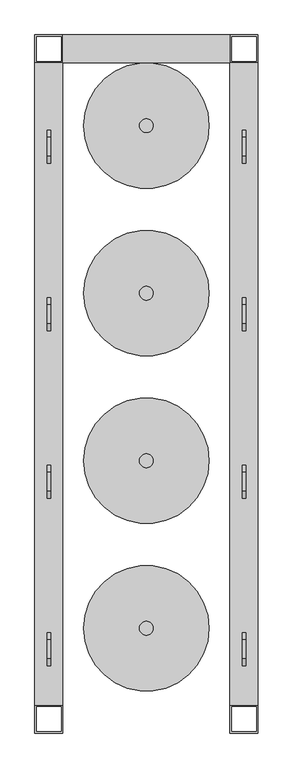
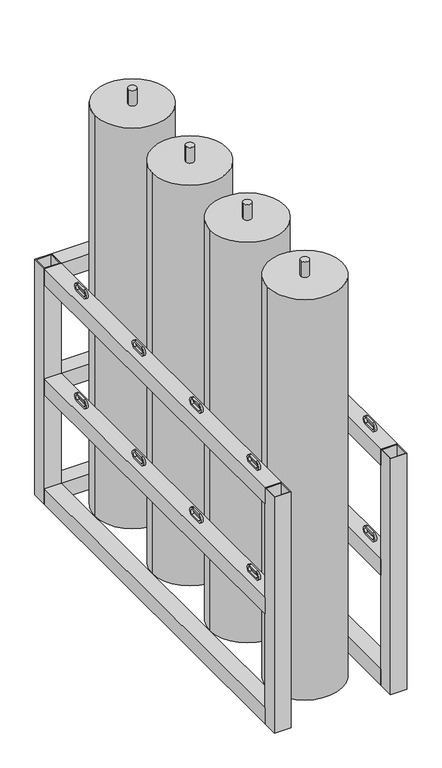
"""IFC4 building model written with IfcOpenShell, lengths in millimetres: flow terminal geometry, Gas_Cylinder_Rack_4_Tanks_1x4_USAsafetycom_18954 : Gas_Cylinder_Rack_4_Tanks_1x4_USAsafetycom_18954."""

import ifcopenshell
import ifcopenshell.guid

model = None  # the IFC model being written
_history = None  # IfcOwnerHistory: only IFC2X3 demands one
_inside = {}  # id of a spatial element -> (the spatial element, [elements in it])
_under = {}  # id of a project, library or spatial element -> (it, [spatial elements below it])
_declared = {}  # id of a project -> (the project, [libraries it declares])
_typed = {}  # id of a type object -> (the type object, [elements of that type])
_made_of = {}  # id of a material, layer set ... -> (it, [elements and type objects made of it])


def new_model(schema):
    """Start an empty IFC model of exactly this schema.

    Asked for "IFC4X3", IfcOpenShell would pick the latest addendum, in which some entities
    have other attributes; the version numbers below select the first issue.
    IFC2X3 requires an IfcOwnerHistory on every rooted entity: one is made here for all.
    """
    global model, _history
    if schema == "IFC4X3":
        model = ifcopenshell.file(schema_version=(4, 3, 0, 0))
    else:
        model = ifcopenshell.file(schema=schema)
    _inside.clear()
    _under.clear()
    _declared.clear()
    _typed.clear()
    _made_of.clear()
    _history = None
    if model.schema == "IFC2X3":
        org = make("IfcOrganization", Name="unknown")
        user = make(
            "IfcPersonAndOrganization",
            ThePerson=make("IfcPerson", FamilyName="unknown"),
            TheOrganization=org,
        )
        app = make(
            "IfcApplication",
            ApplicationDeveloper=org,
            Version="unknown",
            ApplicationFullName="unknown",
            ApplicationIdentifier="unknown",
        )
        _history = make(
            "IfcOwnerHistory",
            OwningUser=user,
            OwningApplication=app,
            ChangeAction="ADDED",
            CreationDate=0,
        )
    return model


def make(cls, **values):
    """One entity of the class cls with the attributes given. An attribute that is None is left unset."""
    return model.create_entity(
        cls, **{name: value for name, value in values.items() if value is not None}
    )


def rooted(cls, **values):
    """An entity with a GlobalId (a new one), such as an element, a storey or a relation."""
    return make(cls, GlobalId=ifcopenshell.guid.new(), OwnerHistory=_history, **values)


def si_unit(unit_type, name, prefix=None):
    """IfcSIUnit, for example si_unit("LENGTHUNIT", "METRE", prefix="MILLI")."""
    return make("IfcSIUnit", UnitType=unit_type, Prefix=prefix, Name=name)


def assignment(units):
    """IfcUnitAssignment: the units of a project."""
    return None if units is None else make("IfcUnitAssignment", Units=units)


def point(xyz):
    """IfcCartesianPoint."""
    return None if xyz is None else make("IfcCartesianPoint", Coordinates=xyz)


def direction(xyz):
    """IfcDirection."""
    return None if xyz is None else make("IfcDirection", DirectionRatios=xyz)


def frame(location, z_axis=None, x_axis=None):
    """IfcAxis2Placement3D, a coordinate frame: its origin and axes. An axis left out is left unset."""
    return make(
        "IfcAxis2Placement3D",
        Location=point(location),
        Axis=direction(z_axis),
        RefDirection=direction(x_axis),
    )


def frame_2d(location, x_axis=None):
    """IfcAxis2Placement2D, a coordinate frame in the plane: its origin and x axis."""
    return make(
        "IfcAxis2Placement2D", Location=point(location), RefDirection=direction(x_axis)
    )


def origin():
    """The frame at (0, 0, 0) with its axes left unset."""
    return frame((0.0, 0.0, 0.0))


def origin_with_axes():
    """The frame at (0, 0, 0) with the z axis (0, 0, 1) and the x axis (1, 0, 0) written out."""
    return frame((0.0, 0.0, 0.0), z_axis=(0.0, 0.0, 1.0), x_axis=(1.0, 0.0, 0.0))


def place(relative_to, where):
    """IfcLocalPlacement: puts the frame where relative to a parent placement (None: the world)."""
    return make(
        "IfcLocalPlacement", PlacementRelTo=relative_to, RelativePlacement=where
    )


def context(
    kind, dimensions, precision=None, world=None, true_north=None, identifier=None
):
    """IfcGeometricRepresentationContext, for example the 3D "Model" context."""
    return make(
        "IfcGeometricRepresentationContext",
        ContextIdentifier=identifier,
        ContextType=kind,
        CoordinateSpaceDimension=dimensions,
        Precision=precision,
        WorldCoordinateSystem=world,
        TrueNorth=true_north,
    )


def project(units=None, contexts=None):
    """IfcProject with its units and contexts."""
    return rooted(
        "IfcProject",
        Name="project",
        RepresentationContexts=contexts,
        UnitsInContext=assignment(units),
    )


def spatial(cls, under=None, at=None, **own):
    """A site, building, storey or space (cls), placed at a placement, below another one or the project."""
    s = rooted(cls, ObjectPlacement=at, **own)
    if under is not None:
        _under.setdefault(under.id(), (under, []))[1].append(s)
    return s


def polyline(points):
    """IfcPolyline through the points."""
    return make("IfcPolyline", Points=[point(p) for p in points])


def circle_curve(where, radius):
    """IfcCircle in the frame where."""
    return make("IfcCircle", Position=where, Radius=radius)


def trimmed(basis, trim1, trim2, sense, master):
    """IfcTrimmedCurve: the piece of a basis curve between two trims."""
    return make(
        "IfcTrimmedCurve",
        BasisCurve=basis,
        Trim1=trim1,
        Trim2=trim2,
        SenseAgreement=sense,
        MasterRepresentation=master,
    )


def segment(curve, same_sense, transition):
    """IfcCompositeCurveSegment."""
    return make(
        "IfcCompositeCurveSegment",
        Transition=transition,
        SameSense=same_sense,
        ParentCurve=curve,
    )


def composite_curve(segments, self_intersect=None):
    """IfcCompositeCurve: segments joined end to end."""
    return make("IfcCompositeCurve", Segments=segments, SelfIntersect=self_intersect)


def outline(outer, holes=None, kind="AREA"):
    """IfcArbitraryClosedProfileDef: a profile drawn as a closed curve; with holes, ...WithVoids."""
    if holes is None:
        return make("IfcArbitraryClosedProfileDef", ProfileType=kind, OuterCurve=outer)
    return make(
        "IfcArbitraryProfileDefWithVoids",
        ProfileType=kind,
        OuterCurve=outer,
        InnerCurves=holes,
    )


def extrude(swept, where, along, depth):
    """IfcExtrudedAreaSolid: the profile swept, set in the frame where, extruded along a direction by depth."""
    return make(
        "IfcExtrudedAreaSolid",
        SweptArea=swept,
        Position=where,
        ExtrudedDirection=direction(along),
        Depth=depth,
    )


def shape(context_of_items, identifier, shape_type, items):
    """IfcShapeRepresentation: the items that make up one representation, for example the "Body"."""
    return make(
        "IfcShapeRepresentation",
        ContextOfItems=context_of_items,
        RepresentationIdentifier=identifier,
        RepresentationType=shape_type,
        Items=items,
    )


def source(mapping_origin, context_of_items, identifier, shape_type, items):
    """IfcRepresentationMap: a shape defined once, which mapped items show again and again."""
    return make(
        "IfcRepresentationMap",
        MappingOrigin=mapping_origin,
        MappedRepresentation=shape(context_of_items, identifier, shape_type, items),
    )


def transform(
    local_origin,
    x_axis=None,
    y_axis=None,
    z_axis=None,
    scale=None,
    scale2=None,
    scale3=None,
    uniform=True,
):
    """IfcCartesianTransformationOperator3D, or its non-uniform kind. x_axis, y_axis, z_axis: its Axis1, 2, 3."""
    if uniform:
        return make(
            "IfcCartesianTransformationOperator3D",
            Axis1=direction(x_axis),
            Axis2=direction(y_axis),
            LocalOrigin=point(local_origin),
            Scale=scale,
            Axis3=direction(z_axis),
        )
    return make(
        "IfcCartesianTransformationOperator3DnonUniform",
        Axis1=direction(x_axis),
        Axis2=direction(y_axis),
        LocalOrigin=point(local_origin),
        Scale=scale,
        Axis3=direction(z_axis),
        Scale2=scale2,
        Scale3=scale3,
    )


def mapped(mapping_source, mapping_target):
    """IfcMappedItem: shows the shape of a source again, moved by a transform."""
    return make(
        "IfcMappedItem", MappingSource=mapping_source, MappingTarget=mapping_target
    )


def made_of(thing, what):
    """Note that an element or type object is made of a material, layer set ...; save() writes the relation."""
    if what is not None:
        _made_of.setdefault(what.id(), (what, []))[1].append(thing)
    return thing


def element(
    cls,
    number,
    at=None,
    inside=None,
    cuts=None,
    type_object=None,
    material=None,
    context=None,
    identifier="Body",
    shape_type=None,
    held_by="IfcProductDefinitionShape",
    body=None,
    shapes=None,
    **own,
):
    """One element of the class cls, such as IfcWall. Its Tag is "e" and its number.

    at: its placement. inside: the storey or other place that contains it. cuts: it is an
    opening in that element (IfcRelVoidsElement). A single representation is given by context,
    identifier, shape_type and body (its items); several are given by shapes. held_by: the class
    of the entity that holds the representations. save() writes the other relations.
    """
    e = rooted(cls, Tag="e%d" % number, ObjectPlacement=at, **own)
    if body is not None:
        shapes = [shape(context, identifier, shape_type, body)]
    if shapes is not None:
        e.Representation = make(held_by, Representations=shapes)
    if inside is not None:
        _inside.setdefault(inside.id(), (inside, []))[1].append(e)
    if cuts is not None:
        rooted(
            "IfcRelVoidsElement", RelatingBuildingElement=cuts, RelatedOpeningElement=e
        )
    if type_object is not None:
        _typed.setdefault(type_object.id(), (type_object, []))[1].append(e)
    return made_of(e, material)


def aggregate(whole, parts):
    """IfcRelAggregates: a whole, such as a stair, and the parts it consists of."""
    return rooted("IfcRelAggregates", RelatingObject=whole, RelatedObjects=parts)


def save(model, path):
    """Write the relations noted so far, then the file.

    IfcRelAggregates (storeys below a building ...), IfcRelContainedInSpatialStructure (elements
    in a storey), IfcRelDefinesByType, IfcRelAssociatesMaterial and IfcRelDeclares: one each for
    every whole, place, type object, material and project.
    """
    for whole, parts in _under.values():
        aggregate(whole, parts)
    for where, things in _inside.values():
        rooted(
            "IfcRelContainedInSpatialStructure",
            RelatedElements=things,
            RelatingStructure=where,
        )
    for kind, things in _typed.values():
        rooted("IfcRelDefinesByType", RelatedObjects=things, RelatingType=kind)
    for what, things in _made_of.values():
        rooted("IfcRelAssociatesMaterial", RelatedObjects=things, RelatingMaterial=what)
    for by, libraries in _declared.values():
        rooted("IfcRelDeclares", RelatingContext=by, RelatedDefinitions=libraries)
    model.write(path)


def flow_terminal_4c00ecbf(model_context):
    return source(origin(), model_context, "Body", "SweptSolid", [
        extrude(outline(composite_curve([segment(trimmed(circle_curve(frame_2d((203.2, -165.1)), 12.5), [point((190.7, -165.1))], [point((215.7, -165.1))], False, "CARTESIAN"), True, "CONTINUOUS"), segment(trimmed(circle_curve(frame_2d((203.2, -165.1)), 12.5), [point((215.7, -165.1))], [point((190.7, -165.1))], False, "CARTESIAN"), True, "CONTINUOUS")], self_intersect=False)), frame((0.0, 0.0, 1295.4), z_axis=(0.0, 0.0, 1.0), x_axis=(1.0, 0.0, 0.0)), (0.0, 0.0, 1.0), 50.0),
        extrude(outline(composite_curve([segment(trimmed(circle_curve(frame_2d((203.2, -469.9)), 12.5), [point((190.7, -469.9))], [point((215.7, -469.9))], False, "CARTESIAN"), True, "CONTINUOUS"), segment(trimmed(circle_curve(frame_2d((203.2, -469.9)), 12.5), [point((215.7, -469.9))], [point((190.7, -469.9))], False, "CARTESIAN"), True, "CONTINUOUS")], self_intersect=False)), frame((0.0, 0.0, 1295.4), z_axis=(0.0, 0.0, 1.0), x_axis=(1.0, 0.0, 0.0)), (0.0, 0.0, 1.0), 50.0),
        extrude(outline(composite_curve([segment(trimmed(circle_curve(frame_2d((203.2, -774.7)), 12.5), [point((190.7, -774.7))], [point((215.7, -774.7))], False, "CARTESIAN"), True, "CONTINUOUS"), segment(trimmed(circle_curve(frame_2d((203.2, -774.7)), 12.5), [point((215.7, -774.7))], [point((190.7, -774.7))], False, "CARTESIAN"), True, "CONTINUOUS")], self_intersect=False)), frame((0.0, 0.0, 1295.4), z_axis=(0.0, 0.0, 1.0), x_axis=(1.0, 0.0, 0.0)), (0.0, 0.0, 1.0), 50.0),
        extrude(outline(composite_curve([segment(trimmed(circle_curve(frame_2d((203.2, -1079.5)), 12.5), [point((190.7, -1079.5))], [point((215.7, -1079.5))], False, "CARTESIAN"), True, "CONTINUOUS"), segment(trimmed(circle_curve(frame_2d((203.2, -1079.5)), 12.5), [point((215.7, -1079.5))], [point((190.7, -1079.5))], False, "CARTESIAN"), True, "CONTINUOUS")], self_intersect=False)), frame((0.0, 0.0, 1295.4), z_axis=(0.0, 0.0, 1.0), x_axis=(1.0, 0.0, 0.0)), (0.0, 0.0, 1.0), 50.0),
        extrude(outline(composite_curve([segment(trimmed(circle_curve(frame_2d((203.2, -1079.5)), 114.3), [point((88.9, -1079.5))], [point((317.5, -1079.5))], False, "CARTESIAN"), True, "CONTINUOUS"), segment(trimmed(circle_curve(frame_2d((203.2, -1079.5)), 114.3), [point((317.5, -1079.5))], [point((88.9, -1079.5))], False, "CARTESIAN"), True, "CONTINUOUS")], self_intersect=False)), origin_with_axes(), (0.0, 0.0, 1.0), 1295.4),
        extrude(outline(composite_curve([segment(trimmed(circle_curve(frame_2d((-1134.6815, 419.481)), 13.081), [point((-1134.6815, 406.4))], [point((-1134.6815, 432.562))], False, "CARTESIAN"), True, "CONTINUOUS"), segment(polyline([(-1134.6815, 432.562), (-1100.5185, 432.562)]), True, "CONTINUOUS"), segment(trimmed(circle_curve(frame_2d((-1100.5185, 419.481)), 13.081), [point((-1100.5185, 432.562))], [point((-1100.5185, 406.4))], False, "CARTESIAN"), True, "CONTINUOUS"), segment(polyline([(-1100.5185, 406.4), (-1134.6815, 406.4)]), True, "CONTINUOUS")], self_intersect=False), holes=[composite_curve([segment(polyline([(-1134.6815, 412.75), (-1100.5185, 412.75)]), True, "CONTINUOUS"), segment(trimmed(circle_curve(frame_2d((-1100.5185, 419.481)), 6.731), [point((-1100.5185, 412.75))], [point((-1100.5185, 426.212))], True, "CARTESIAN"), True, "CONTINUOUS"), segment(polyline([(-1100.5185, 426.212), (-1134.6815, 426.212)]), True, "CONTINUOUS"), segment(trimmed(circle_curve(frame_2d((-1134.6815, 419.481)), 6.731), [point((-1134.6815, 426.212))], [point((-1134.6815, 412.75))], True, "CARTESIAN"), True, "CONTINUOUS")], self_intersect=False)]), frame((22.225, 0.0, 0.0), z_axis=(1.0, 0.0, 0.0), x_axis=(0.0, 1.0, 0.0)), (0.0, 0.0, 1.0), 6.35),
        extrude(outline(composite_curve([segment(trimmed(circle_curve(frame_2d((-1134.6815, 419.481)), 13.081), [point((-1134.6815, 406.4))], [point((-1134.6815, 432.562))], False, "CARTESIAN"), True, "CONTINUOUS"), segment(polyline([(-1134.6815, 432.562), (-1100.5185, 432.562)]), True, "CONTINUOUS"), segment(trimmed(circle_curve(frame_2d((-1100.5185, 419.481)), 13.081), [point((-1100.5185, 432.562))], [point((-1100.5185, 406.4))], False, "CARTESIAN"), True, "CONTINUOUS"), segment(polyline([(-1100.5185, 406.4), (-1134.6815, 406.4)]), True, "CONTINUOUS")], self_intersect=False), holes=[composite_curve([segment(polyline([(-1134.6815, 412.75), (-1100.5185, 412.75)]), True, "CONTINUOUS"), segment(trimmed(circle_curve(frame_2d((-1100.5185, 419.481)), 6.731), [point((-1100.5185, 412.75))], [point((-1100.5185, 426.212))], True, "CARTESIAN"), True, "CONTINUOUS"), segment(polyline([(-1100.5185, 426.212), (-1134.6815, 426.212)]), True, "CONTINUOUS"), segment(trimmed(circle_curve(frame_2d((-1134.6815, 419.481)), 6.731), [point((-1134.6815, 426.212))], [point((-1134.6815, 412.75))], True, "CARTESIAN"), True, "CONTINUOUS")], self_intersect=False)]), frame((377.825, 0.0, 0.0), z_axis=(1.0, 0.0, 0.0), x_axis=(0.0, 1.0, 0.0)), (0.0, 0.0, 1.0), 6.35),
        extrude(outline(composite_curve([segment(trimmed(circle_curve(frame_2d((-1134.6815, 775.081)), 13.081), [point((-1134.6815, 762.0))], [point((-1134.6815, 788.162))], False, "CARTESIAN"), True, "CONTINUOUS"), segment(polyline([(-1134.6815, 788.162), (-1100.5185, 788.162)]), True, "CONTINUOUS"), segment(trimmed(circle_curve(frame_2d((-1100.5185, 775.081)), 13.081), [point((-1100.5185, 788.162))], [point((-1100.5185, 762.0))], False, "CARTESIAN"), True, "CONTINUOUS"), segment(polyline([(-1100.5185, 762.0), (-1134.6815, 762.0)]), True, "CONTINUOUS")], self_intersect=False), holes=[composite_curve([segment(polyline([(-1134.6815, 768.35), (-1100.5185, 768.35)]), True, "CONTINUOUS"), segment(trimmed(circle_curve(frame_2d((-1100.5185, 775.081)), 6.731), [point((-1100.5185, 768.35))], [point((-1100.5185, 781.812))], True, "CARTESIAN"), True, "CONTINUOUS"), segment(polyline([(-1100.5185, 781.812), (-1134.6815, 781.812)]), True, "CONTINUOUS"), segment(trimmed(circle_curve(frame_2d((-1134.6815, 775.081)), 6.731), [point((-1134.6815, 781.812))], [point((-1134.6815, 768.35))], True, "CARTESIAN"), True, "CONTINUOUS")], self_intersect=False)]), frame((22.225, 0.0, 0.0), z_axis=(1.0, 0.0, 0.0), x_axis=(0.0, 1.0, 0.0)), (0.0, 0.0, 1.0), 6.35),
        extrude(outline(composite_curve([segment(trimmed(circle_curve(frame_2d((-1134.6815, 775.081)), 13.081), [point((-1134.6815, 762.0))], [point((-1134.6815, 788.162))], False, "CARTESIAN"), True, "CONTINUOUS"), segment(polyline([(-1134.6815, 788.162), (-1100.5185, 788.162)]), True, "CONTINUOUS"), segment(trimmed(circle_curve(frame_2d((-1100.5185, 775.081)), 13.081), [point((-1100.5185, 788.162))], [point((-1100.5185, 762.0))], False, "CARTESIAN"), True, "CONTINUOUS"), segment(polyline([(-1100.5185, 762.0), (-1134.6815, 762.0)]), True, "CONTINUOUS")], self_intersect=False), holes=[composite_curve([segment(polyline([(-1134.6815, 768.35), (-1100.5185, 768.35)]), True, "CONTINUOUS"), segment(trimmed(circle_curve(frame_2d((-1100.5185, 775.081)), 6.731), [point((-1100.5185, 768.35))], [point((-1100.5185, 781.812))], True, "CARTESIAN"), True, "CONTINUOUS"), segment(polyline([(-1100.5185, 781.812), (-1134.6815, 781.812)]), True, "CONTINUOUS"), segment(trimmed(circle_curve(frame_2d((-1134.6815, 775.081)), 6.731), [point((-1134.6815, 781.812))], [point((-1134.6815, 768.35))], True, "CARTESIAN"), True, "CONTINUOUS")], self_intersect=False)]), frame((377.825, 0.0, 0.0), z_axis=(1.0, 0.0, 0.0), x_axis=(0.0, 1.0, 0.0)), (0.0, 0.0, 1.0), 6.35),
        extrude(outline(composite_curve([segment(trimmed(circle_curve(frame_2d((203.2, -165.1)), 114.3), [point((88.9, -165.1))], [point((317.5, -165.1))], False, "CARTESIAN"), True, "CONTINUOUS"), segment(trimmed(circle_curve(frame_2d((203.2, -165.1)), 114.3), [point((317.5, -165.1))], [point((88.9, -165.1))], False, "CARTESIAN"), True, "CONTINUOUS")], self_intersect=False)), origin_with_axes(), (0.0, 0.0, 1.0), 1295.4),
        extrude(outline(composite_curve([segment(trimmed(circle_curve(frame_2d((-220.2815, 419.481)), 13.081), [point((-220.2815, 406.4))], [point((-220.2815, 432.562))], False, "CARTESIAN"), True, "CONTINUOUS"), segment(polyline([(-220.2815, 432.562), (-186.1185, 432.562)]), True, "CONTINUOUS"), segment(trimmed(circle_curve(frame_2d((-186.1185, 419.481)), 13.081), [point((-186.1185, 432.562))], [point((-186.1185, 406.4))], False, "CARTESIAN"), True, "CONTINUOUS"), segment(polyline([(-186.1185, 406.4), (-220.2815, 406.4)]), True, "CONTINUOUS")], self_intersect=False), holes=[composite_curve([segment(polyline([(-220.2815, 412.75), (-186.1185, 412.75)]), True, "CONTINUOUS"), segment(trimmed(circle_curve(frame_2d((-186.1185, 419.481)), 6.731), [point((-186.1185, 412.75))], [point((-186.1185, 426.212))], True, "CARTESIAN"), True, "CONTINUOUS"), segment(polyline([(-186.1185, 426.212), (-220.2815, 426.212)]), True, "CONTINUOUS"), segment(trimmed(circle_curve(frame_2d((-220.2815, 419.481)), 6.731), [point((-220.2815, 426.212))], [point((-220.2815, 412.75))], True, "CARTESIAN"), True, "CONTINUOUS")], self_intersect=False)]), frame((22.225, 0.0, 0.0), z_axis=(1.0, 0.0, 0.0), x_axis=(0.0, 1.0, 0.0)), (0.0, 0.0, 1.0), 6.35),
        extrude(outline(composite_curve([segment(trimmed(circle_curve(frame_2d((-220.2815, 419.481)), 13.081), [point((-220.2815, 406.4))], [point((-220.2815, 432.562))], False, "CARTESIAN"), True, "CONTINUOUS"), segment(polyline([(-220.2815, 432.562), (-186.1185, 432.562)]), True, "CONTINUOUS"), segment(trimmed(circle_curve(frame_2d((-186.1185, 419.481)), 13.081), [point((-186.1185, 432.562))], [point((-186.1185, 406.4))], False, "CARTESIAN"), True, "CONTINUOUS"), segment(polyline([(-186.1185, 406.4), (-220.2815, 406.4)]), True, "CONTINUOUS")], self_intersect=False), holes=[composite_curve([segment(polyline([(-220.2815, 412.75), (-186.1185, 412.75)]), True, "CONTINUOUS"), segment(trimmed(circle_curve(frame_2d((-186.1185, 419.481)), 6.731), [point((-186.1185, 412.75))], [point((-186.1185, 426.212))], True, "CARTESIAN"), True, "CONTINUOUS"), segment(polyline([(-186.1185, 426.212), (-220.2815, 426.212)]), True, "CONTINUOUS"), segment(trimmed(circle_curve(frame_2d((-220.2815, 419.481)), 6.731), [point((-220.2815, 426.212))], [point((-220.2815, 412.75))], True, "CARTESIAN"), True, "CONTINUOUS")], self_intersect=False)]), frame((377.825, 0.0, 0.0), z_axis=(1.0, 0.0, 0.0), x_axis=(0.0, 1.0, 0.0)), (0.0, 0.0, 1.0), 6.35),
        extrude(outline(composite_curve([segment(trimmed(circle_curve(frame_2d((-220.2815, 775.081)), 13.081), [point((-220.2815, 762.0))], [point((-220.2815, 788.162))], False, "CARTESIAN"), True, "CONTINUOUS"), segment(polyline([(-220.2815, 788.162), (-186.1185, 788.162)]), True, "CONTINUOUS"), segment(trimmed(circle_curve(frame_2d((-186.1185, 775.081)), 13.081), [point((-186.1185, 788.162))], [point((-186.1185, 762.0))], False, "CARTESIAN"), True, "CONTINUOUS"), segment(polyline([(-186.1185, 762.0), (-220.2815, 762.0)]), True, "CONTINUOUS")], self_intersect=False), holes=[composite_curve([segment(polyline([(-220.2815, 768.35), (-186.1185, 768.35)]), True, "CONTINUOUS"), segment(trimmed(circle_curve(frame_2d((-186.1185, 775.081)), 6.731), [point((-186.1185, 768.35))], [point((-186.1185, 781.812))], True, "CARTESIAN"), True, "CONTINUOUS"), segment(polyline([(-186.1185, 781.812), (-220.2815, 781.812)]), True, "CONTINUOUS"), segment(trimmed(circle_curve(frame_2d((-220.2815, 775.081)), 6.731), [point((-220.2815, 781.812))], [point((-220.2815, 768.35))], True, "CARTESIAN"), True, "CONTINUOUS")], self_intersect=False)]), frame((22.225, 0.0, 0.0), z_axis=(1.0, 0.0, 0.0), x_axis=(0.0, 1.0, 0.0)), (0.0, 0.0, 1.0), 6.35),
        extrude(outline(composite_curve([segment(trimmed(circle_curve(frame_2d((-220.2815, 775.081)), 13.081), [point((-220.2815, 762.0))], [point((-220.2815, 788.162))], False, "CARTESIAN"), True, "CONTINUOUS"), segment(polyline([(-220.2815, 788.162), (-186.1185, 788.162)]), True, "CONTINUOUS"), segment(trimmed(circle_curve(frame_2d((-186.1185, 775.081)), 13.081), [point((-186.1185, 788.162))], [point((-186.1185, 762.0))], False, "CARTESIAN"), True, "CONTINUOUS"), segment(polyline([(-186.1185, 762.0), (-220.2815, 762.0)]), True, "CONTINUOUS")], self_intersect=False), holes=[composite_curve([segment(polyline([(-220.2815, 768.35), (-186.1185, 768.35)]), True, "CONTINUOUS"), segment(trimmed(circle_curve(frame_2d((-186.1185, 775.081)), 6.731), [point((-186.1185, 768.35))], [point((-186.1185, 781.812))], True, "CARTESIAN"), True, "CONTINUOUS"), segment(polyline([(-186.1185, 781.812), (-220.2815, 781.812)]), True, "CONTINUOUS"), segment(trimmed(circle_curve(frame_2d((-220.2815, 775.081)), 6.731), [point((-220.2815, 781.812))], [point((-220.2815, 768.35))], True, "CARTESIAN"), True, "CONTINUOUS")], self_intersect=False)]), frame((377.825, 0.0, 0.0), z_axis=(1.0, 0.0, 0.0), x_axis=(0.0, 1.0, 0.0)), (0.0, 0.0, 1.0), 6.35),
        extrude(outline(composite_curve([segment(trimmed(circle_curve(frame_2d((203.2, -774.7)), 114.3), [point((88.9, -774.7))], [point((317.5, -774.7))], False, "CARTESIAN"), True, "CONTINUOUS"), segment(trimmed(circle_curve(frame_2d((203.2, -774.7)), 114.3), [point((317.5, -774.7))], [point((88.9, -774.7))], False, "CARTESIAN"), True, "CONTINUOUS")], self_intersect=False)), origin_with_axes(), (0.0, 0.0, 1.0), 1295.4),
        extrude(outline(composite_curve([segment(trimmed(circle_curve(frame_2d((203.2, -469.9)), 114.3), [point((88.9, -469.9))], [point((317.5, -469.9))], False, "CARTESIAN"), True, "CONTINUOUS"), segment(trimmed(circle_curve(frame_2d((203.2, -469.9)), 114.3), [point((317.5, -469.9))], [point((88.9, -469.9))], False, "CARTESIAN"), True, "CONTINUOUS")], self_intersect=False)), origin_with_axes(), (0.0, 0.0, 1.0), 1295.4),
        extrude(outline(composite_curve([segment(trimmed(circle_curve(frame_2d((-525.0815, 419.481)), 13.081), [point((-525.0815, 406.4))], [point((-525.0815, 432.562))], False, "CARTESIAN"), True, "CONTINUOUS"), segment(polyline([(-525.0815, 432.562), (-490.9185, 432.562)]), True, "CONTINUOUS"), segment(trimmed(circle_curve(frame_2d((-490.9185, 419.481)), 13.081), [point((-490.9185, 432.562))], [point((-490.9185, 406.4))], False, "CARTESIAN"), True, "CONTINUOUS"), segment(polyline([(-490.9185, 406.4), (-525.0815, 406.4)]), True, "CONTINUOUS")], self_intersect=False), holes=[composite_curve([segment(polyline([(-525.0815, 412.75), (-490.9185, 412.75)]), True, "CONTINUOUS"), segment(trimmed(circle_curve(frame_2d((-490.9185, 419.481)), 6.731), [point((-490.9185, 412.75))], [point((-490.9185, 426.212))], True, "CARTESIAN"), True, "CONTINUOUS"), segment(polyline([(-490.9185, 426.212), (-525.0815, 426.212)]), True, "CONTINUOUS"), segment(trimmed(circle_curve(frame_2d((-525.0815, 419.481)), 6.731), [point((-525.0815, 426.212))], [point((-525.0815, 412.75))], True, "CARTESIAN"), True, "CONTINUOUS")], self_intersect=False)]), frame((22.225, 0.0, 0.0), z_axis=(1.0, 0.0, 0.0), x_axis=(0.0, 1.0, 0.0)), (0.0, 0.0, 1.0), 6.35),
        extrude(outline(composite_curve([segment(trimmed(circle_curve(frame_2d((-525.0815, 419.481)), 13.081), [point((-525.0815, 406.4))], [point((-525.0815, 432.562))], False, "CARTESIAN"), True, "CONTINUOUS"), segment(polyline([(-525.0815, 432.562), (-490.9185, 432.562)]), True, "CONTINUOUS"), segment(trimmed(circle_curve(frame_2d((-490.9185, 419.481)), 13.081), [point((-490.9185, 432.562))], [point((-490.9185, 406.4))], False, "CARTESIAN"), True, "CONTINUOUS"), segment(polyline([(-490.9185, 406.4), (-525.0815, 406.4)]), True, "CONTINUOUS")], self_intersect=False), holes=[composite_curve([segment(polyline([(-525.0815, 412.75), (-490.9185, 412.75)]), True, "CONTINUOUS"), segment(trimmed(circle_curve(frame_2d((-490.9185, 419.481)), 6.731), [point((-490.9185, 412.75))], [point((-490.9185, 426.212))], True, "CARTESIAN"), True, "CONTINUOUS"), segment(polyline([(-490.9185, 426.212), (-525.0815, 426.212)]), True, "CONTINUOUS"), segment(trimmed(circle_curve(frame_2d((-525.0815, 419.481)), 6.731), [point((-525.0815, 426.212))], [point((-525.0815, 412.75))], True, "CARTESIAN"), True, "CONTINUOUS")], self_intersect=False)]), frame((377.825, 0.0, 0.0), z_axis=(1.0, 0.0, 0.0), x_axis=(0.0, 1.0, 0.0)), (0.0, 0.0, 1.0), 6.35),
        extrude(outline(composite_curve([segment(trimmed(circle_curve(frame_2d((-525.0815, 775.081)), 13.081), [point((-525.0815, 762.0))], [point((-525.0815, 788.162))], False, "CARTESIAN"), True, "CONTINUOUS"), segment(polyline([(-525.0815, 788.162), (-490.9185, 788.162)]), True, "CONTINUOUS"), segment(trimmed(circle_curve(frame_2d((-490.9185, 775.081)), 13.081), [point((-490.9185, 788.162))], [point((-490.9185, 762.0))], False, "CARTESIAN"), True, "CONTINUOUS"), segment(polyline([(-490.9185, 762.0), (-525.0815, 762.0)]), True, "CONTINUOUS")], self_intersect=False), holes=[composite_curve([segment(polyline([(-525.0815, 768.35), (-490.9185, 768.35)]), True, "CONTINUOUS"), segment(trimmed(circle_curve(frame_2d((-490.9185, 775.081)), 6.731), [point((-490.9185, 768.35))], [point((-490.9185, 781.812))], True, "CARTESIAN"), True, "CONTINUOUS"), segment(polyline([(-490.9185, 781.812), (-525.0815, 781.812)]), True, "CONTINUOUS"), segment(trimmed(circle_curve(frame_2d((-525.0815, 775.081)), 6.731), [point((-525.0815, 781.812))], [point((-525.0815, 768.35))], True, "CARTESIAN"), True, "CONTINUOUS")], self_intersect=False)]), frame((22.225, 0.0, 0.0), z_axis=(1.0, 0.0, 0.0), x_axis=(0.0, 1.0, 0.0)), (0.0, 0.0, 1.0), 6.35),
        extrude(outline(composite_curve([segment(trimmed(circle_curve(frame_2d((-525.0815, 775.081)), 13.081), [point((-525.0815, 762.0))], [point((-525.0815, 788.162))], False, "CARTESIAN"), True, "CONTINUOUS"), segment(polyline([(-525.0815, 788.162), (-490.9185, 788.162)]), True, "CONTINUOUS"), segment(trimmed(circle_curve(frame_2d((-490.9185, 775.081)), 13.081), [point((-490.9185, 788.162))], [point((-490.9185, 762.0))], False, "CARTESIAN"), True, "CONTINUOUS"), segment(polyline([(-490.9185, 762.0), (-525.0815, 762.0)]), True, "CONTINUOUS")], self_intersect=False), holes=[composite_curve([segment(polyline([(-525.0815, 768.35), (-490.9185, 768.35)]), True, "CONTINUOUS"), segment(trimmed(circle_curve(frame_2d((-490.9185, 775.081)), 6.731), [point((-490.9185, 768.35))], [point((-490.9185, 781.812))], True, "CARTESIAN"), True, "CONTINUOUS"), segment(polyline([(-490.9185, 781.812), (-525.0815, 781.812)]), True, "CONTINUOUS"), segment(trimmed(circle_curve(frame_2d((-525.0815, 775.081)), 6.731), [point((-525.0815, 781.812))], [point((-525.0815, 768.35))], True, "CARTESIAN"), True, "CONTINUOUS")], self_intersect=False)]), frame((377.825, 0.0, 0.0), z_axis=(1.0, 0.0, 0.0), x_axis=(0.0, 1.0, 0.0)), (0.0, 0.0, 1.0), 6.35),
        extrude(outline(composite_curve([segment(trimmed(circle_curve(frame_2d((-829.8815, 419.481)), 13.081), [point((-829.8815, 406.4))], [point((-829.8815, 432.562))], False, "CARTESIAN"), True, "CONTINUOUS"), segment(polyline([(-829.8815, 432.562), (-795.7185, 432.562)]), True, "CONTINUOUS"), segment(trimmed(circle_curve(frame_2d((-795.7185, 419.481)), 13.081), [point((-795.7185, 432.562))], [point((-795.7185, 406.4))], False, "CARTESIAN"), True, "CONTINUOUS"), segment(polyline([(-795.7185, 406.4), (-829.8815, 406.4)]), True, "CONTINUOUS")], self_intersect=False), holes=[composite_curve([segment(polyline([(-829.8815, 412.75), (-795.7185, 412.75)]), True, "CONTINUOUS"), segment(trimmed(circle_curve(frame_2d((-795.7185, 419.481)), 6.731), [point((-795.7185, 412.75))], [point((-795.7185, 426.212))], True, "CARTESIAN"), True, "CONTINUOUS"), segment(polyline([(-795.7185, 426.212), (-829.8815, 426.212)]), True, "CONTINUOUS"), segment(trimmed(circle_curve(frame_2d((-829.8815, 419.481)), 6.731), [point((-829.8815, 426.212))], [point((-829.8815, 412.75))], True, "CARTESIAN"), True, "CONTINUOUS")], self_intersect=False)]), frame((22.225, 0.0, 0.0), z_axis=(1.0, 0.0, 0.0), x_axis=(0.0, 1.0, 0.0)), (0.0, 0.0, 1.0), 6.35),
        extrude(outline(composite_curve([segment(trimmed(circle_curve(frame_2d((-829.8815, 419.481)), 13.081), [point((-829.8815, 406.4))], [point((-829.8815, 432.562))], False, "CARTESIAN"), True, "CONTINUOUS"), segment(polyline([(-829.8815, 432.562), (-795.7185, 432.562)]), True, "CONTINUOUS"), segment(trimmed(circle_curve(frame_2d((-795.7185, 419.481)), 13.081), [point((-795.7185, 432.562))], [point((-795.7185, 406.4))], False, "CARTESIAN"), True, "CONTINUOUS"), segment(polyline([(-795.7185, 406.4), (-829.8815, 406.4)]), True, "CONTINUOUS")], self_intersect=False), holes=[composite_curve([segment(polyline([(-829.8815, 412.75), (-795.7185, 412.75)]), True, "CONTINUOUS"), segment(trimmed(circle_curve(frame_2d((-795.7185, 419.481)), 6.731), [point((-795.7185, 412.75))], [point((-795.7185, 426.212))], True, "CARTESIAN"), True, "CONTINUOUS"), segment(polyline([(-795.7185, 426.212), (-829.8815, 426.212)]), True, "CONTINUOUS"), segment(trimmed(circle_curve(frame_2d((-829.8815, 419.481)), 6.731), [point((-829.8815, 426.212))], [point((-829.8815, 412.75))], True, "CARTESIAN"), True, "CONTINUOUS")], self_intersect=False)]), frame((377.825, 0.0, 0.0), z_axis=(1.0, 0.0, 0.0), x_axis=(0.0, 1.0, 0.0)), (0.0, 0.0, 1.0), 6.35),
        extrude(outline(composite_curve([segment(trimmed(circle_curve(frame_2d((-829.8815, 775.081)), 13.081), [point((-829.8815, 762.0))], [point((-829.8815, 788.162))], False, "CARTESIAN"), True, "CONTINUOUS"), segment(polyline([(-829.8815, 788.162), (-795.7185, 788.162)]), True, "CONTINUOUS"), segment(trimmed(circle_curve(frame_2d((-795.7185, 775.081)), 13.081), [point((-795.7185, 788.162))], [point((-795.7185, 762.0))], False, "CARTESIAN"), True, "CONTINUOUS"), segment(polyline([(-795.7185, 762.0), (-829.8815, 762.0)]), True, "CONTINUOUS")], self_intersect=False), holes=[composite_curve([segment(polyline([(-829.8815, 768.35), (-795.7185, 768.35)]), True, "CONTINUOUS"), segment(trimmed(circle_curve(frame_2d((-795.7185, 775.081)), 6.731), [point((-795.7185, 768.35))], [point((-795.7185, 781.812))], True, "CARTESIAN"), True, "CONTINUOUS"), segment(polyline([(-795.7185, 781.812), (-829.8815, 781.812)]), True, "CONTINUOUS"), segment(trimmed(circle_curve(frame_2d((-829.8815, 775.081)), 6.731), [point((-829.8815, 781.812))], [point((-829.8815, 768.35))], True, "CARTESIAN"), True, "CONTINUOUS")], self_intersect=False)]), frame((22.225, 0.0, 0.0), z_axis=(1.0, 0.0, 0.0), x_axis=(0.0, 1.0, 0.0)), (0.0, 0.0, 1.0), 6.35),
        extrude(outline(composite_curve([segment(trimmed(circle_curve(frame_2d((-829.8815, 775.081)), 13.081), [point((-829.8815, 762.0))], [point((-829.8815, 788.162))], False, "CARTESIAN"), True, "CONTINUOUS"), segment(polyline([(-829.8815, 788.162), (-795.7185, 788.162)]), True, "CONTINUOUS"), segment(trimmed(circle_curve(frame_2d((-795.7185, 775.081)), 13.081), [point((-795.7185, 788.162))], [point((-795.7185, 762.0))], False, "CARTESIAN"), True, "CONTINUOUS"), segment(polyline([(-795.7185, 762.0), (-829.8815, 762.0)]), True, "CONTINUOUS")], self_intersect=False), holes=[composite_curve([segment(polyline([(-829.8815, 768.35), (-795.7185, 768.35)]), True, "CONTINUOUS"), segment(trimmed(circle_curve(frame_2d((-795.7185, 775.081)), 6.731), [point((-795.7185, 768.35))], [point((-795.7185, 781.812))], True, "CARTESIAN"), True, "CONTINUOUS"), segment(polyline([(-795.7185, 781.812), (-829.8815, 781.812)]), True, "CONTINUOUS"), segment(trimmed(circle_curve(frame_2d((-829.8815, 775.081)), 6.731), [point((-829.8815, 781.812))], [point((-829.8815, 768.35))], True, "CARTESIAN"), True, "CONTINUOUS")], self_intersect=False)]), frame((377.825, 0.0, 0.0), z_axis=(1.0, 0.0, 0.0), x_axis=(0.0, 1.0, 0.0)), (0.0, 0.0, 1.0), 6.35),
        extrude(outline(polyline([(355.6, 355.6), (355.6, 406.4), (406.4, 406.4), (406.4, 355.6), (355.6, 355.6)]), holes=[polyline([(358.775, 403.225), (358.775, 358.775), (403.225, 358.775), (403.225, 403.225), (358.775, 403.225)])]), frame((0.0, -1219.2, 0.0), z_axis=(0.0, 1.0, 0.0), x_axis=(0.0, 0.0, 1.0)), (0.0, 0.0, 1.0), 1168.4),
        extrude(outline(polyline([(711.2, 355.6), (711.2, 406.4), (762.0, 406.4), (762.0, 355.6), (711.2, 355.6)]), holes=[polyline([(714.375, 403.225), (714.375, 358.775), (758.825, 358.775), (758.825, 403.225), (714.375, 403.225)])]), frame((0.0, -1219.2, 0.0), z_axis=(0.0, 1.0, 0.0), x_axis=(0.0, 0.0, 1.0)), (0.0, 0.0, 1.0), 1168.4),
        extrude(outline(polyline([(0.0, 355.6), (0.0, 406.4), (50.8, 406.4), (50.8, 355.6), (0.0, 355.6)]), holes=[polyline([(3.175, 403.225), (3.175, 358.775), (47.625, 358.775), (47.625, 403.225), (3.175, 403.225)])]), frame((0.0, -1219.2, 0.0), z_axis=(0.0, 1.0, 0.0), x_axis=(0.0, 0.0, 1.0)), (0.0, 0.0, 1.0), 1168.4),
        extrude(outline(polyline([(355.6, 0.0), (355.6, 50.8), (406.4, 50.8), (406.4, 0.0), (355.6, 0.0)]), holes=[polyline([(358.775, 47.625), (358.775, 3.175), (403.225, 3.175), (403.225, 47.625), (358.775, 47.625)])]), frame((0.0, -1219.2, 0.0), z_axis=(0.0, 1.0, 0.0), x_axis=(0.0, 0.0, 1.0)), (0.0, 0.0, 1.0), 1168.4),
        extrude(outline(polyline([(711.2, 0.0), (711.2, 50.8), (762.0, 50.8), (762.0, 0.0), (711.2, 0.0)]), holes=[polyline([(714.375, 47.625), (714.375, 3.175), (758.825, 3.175), (758.825, 47.625), (714.375, 47.625)])]), frame((0.0, -1219.2, 0.0), z_axis=(0.0, 1.0, 0.0), x_axis=(0.0, 0.0, 1.0)), (0.0, 0.0, 1.0), 1168.4),
        extrude(outline(polyline([(0.0, 0.0), (0.0, 50.8), (50.8, 50.8), (50.8, 0.0), (0.0, 0.0)]), holes=[polyline([(3.175, 47.625), (3.175, 3.175), (47.625, 3.175), (47.625, 47.625), (3.175, 47.625)])]), frame((0.0, -1219.2, 0.0), z_axis=(0.0, 1.0, 0.0), x_axis=(0.0, 0.0, 1.0)), (0.0, 0.0, 1.0), 1168.4),
        extrude(outline(polyline([(0.0, 355.6), (-50.8, 355.6), (-50.8, 406.4), (0.0, 406.4), (0.0, 355.6)]), holes=[polyline([(-47.625, 358.775), (-3.175, 358.775), (-3.175, 403.225), (-47.625, 403.225), (-47.625, 358.775)])]), frame((50.8, 0.0, 0.0), z_axis=(1.0, 0.0, 0.0), x_axis=(0.0, 1.0, 0.0)), (0.0, 0.0, 1.0), 304.8),
        extrude(outline(polyline([(0.0, 711.2), (-50.8, 711.2), (-50.8, 762.0), (0.0, 762.0), (0.0, 711.2)]), holes=[polyline([(-47.625, 714.375), (-3.175, 714.375), (-3.175, 758.825), (-47.625, 758.825), (-47.625, 714.375)])]), frame((50.8, 0.0, 0.0), z_axis=(1.0, 0.0, 0.0), x_axis=(0.0, 1.0, 0.0)), (0.0, 0.0, 1.0), 304.8),
        extrude(outline(polyline([(0.0, 0.0), (-50.8, 0.0), (-50.8, 50.8), (0.0, 50.8), (0.0, 0.0)]), holes=[polyline([(-47.625, 3.175), (-3.175, 3.175), (-3.175, 47.625), (-47.625, 47.625), (-47.625, 3.175)])]), frame((50.8, 0.0, 0.0), z_axis=(1.0, 0.0, 0.0), x_axis=(0.0, 1.0, 0.0)), (0.0, 0.0, 1.0), 304.8),
        extrude(outline(polyline([(406.4, -1219.2), (406.4, -1270.0), (355.6, -1270.0), (355.6, -1219.2), (406.4, -1219.2)]), holes=[polyline([(403.225, -1266.825), (403.225, -1222.375), (358.775, -1222.375), (358.775, -1266.825), (403.225, -1266.825)])]), origin_with_axes(), (0.0, 0.0, 1.0), 762.0),
        extrude(outline(polyline([(50.8, -1219.2), (50.8, -1270.0), (0.0, -1270.0), (0.0, -1219.2), (50.8, -1219.2)]), holes=[polyline([(47.625, -1266.825), (47.625, -1222.375), (3.175, -1222.375), (3.175, -1266.825), (47.625, -1266.825)])]), origin_with_axes(), (0.0, 0.0, 1.0), 762.0),
        extrude(outline(polyline([(406.4, 0.0), (406.4, -50.8), (355.6, -50.8), (355.6, 0.0), (406.4, 0.0)]), holes=[polyline([(403.225, -47.625), (403.225, -3.175), (358.775, -3.175), (358.775, -47.625), (403.225, -47.625)])]), origin_with_axes(), (0.0, 0.0, 1.0), 762.0),
        extrude(outline(polyline([(50.8, 0.0), (50.8, -50.8), (0.0, -50.8), (0.0, 0.0), (50.8, 0.0)]), holes=[polyline([(47.625, -47.625), (47.625, -3.175), (3.175, -3.175), (3.175, -47.625), (47.625, -47.625)])]), origin_with_axes(), (0.0, 0.0, 1.0), 762.0),
    ])


if __name__ == "__main__":
    model = new_model("IFC4")
    model_context = context("Model", 3, world=origin())
    ifc_project = project(units=[si_unit("LENGTHUNIT", "METRE", prefix="MILLI")], contexts=[model_context])
    site = spatial("IfcSite", under=ifc_project)
    building = spatial("IfcBuilding", under=site)
    placement = place(None, origin())
    flow_terminal_shape = flow_terminal_4c00ecbf(model_context)
    element("IfcFlowTerminal", 1, ObjectType="Gas_Cylinder_Rack_4_Tanks_1x4_USAsafetycom_18954 : Gas_Cylinder_Rack_4_Tanks_1x4_USAsafetycom_18954", at=placement, inside=building, context=model_context, shape_type="MappedRepresentation", body=[
        mapped(flow_terminal_shape, transform((0.0, 0.0, 0.0), x_axis=(1.0, 0.0, 0.0), y_axis=(0.0, 1.0, 0.0), z_axis=(0.0, 0.0, 1.0))),
    ])
    save(model, "model.ifc")
